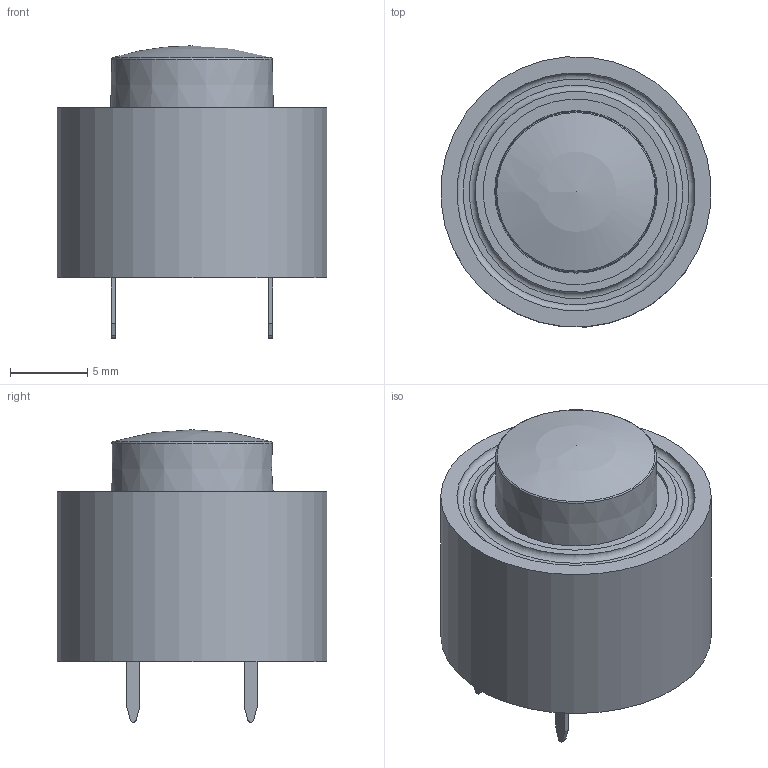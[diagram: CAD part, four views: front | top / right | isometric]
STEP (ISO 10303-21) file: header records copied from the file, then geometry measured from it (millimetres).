
FILE_DESCRIPTION(/* description */ (''),/* implementation_level */ '2;1');
FILE_NAME(/* name */ 'C:\Users\cgh.MEC\Desktop\Traceparts - 3D programserie\STEP filer\TH\5GTH9+1US+1UW.stp',/* time_stamp */ '2016-02-16T10:34:02+01:00',/* author */ ('cgh'),/* organization */ (''),/* preprocessor_version */ 'ST-DEVELOPER v15.2',/* originating_system */ 'Autodesk Inventor 2014',/* authorisation */ '');
FILE_SCHEMA (('AUTOMOTIVE_DESIGN { 1 0 10303 214 3 1 1 }'));
Length unit declared in the file: centimetre
Products named in the file (1): cgh
Bounding box: 17.45 x 17.45 x 18.91 mm (x, y, z)
Volume: 1973.7 mm3; surface area: 2860.5 mm2
Topology: 1 solids, 1 shells, 1002 faces, 2867 edges, 1874 vertices
Faces by surface type: plane 608, cylinder 153, bspline 132, torus 61, cone 39, sphere 9
Full cylindrical faces by diameter (mm): 0.9 x1, 1 x3, 2.8 x1, 4.73 x1, 6.5 x1, 7.44 x1, 12 x2, 13 x1, 17.5 x1
Entity records: 35800 total; most frequent: CARTESIAN_POINT 9455, ORIENTED_EDGE 5618, DIRECTION 4765, EDGE_CURVE 2809, VERTEX_POINT 1860, LINE 1741, VECTOR 1741, AXIS2_PLACEMENT_3D 1512
